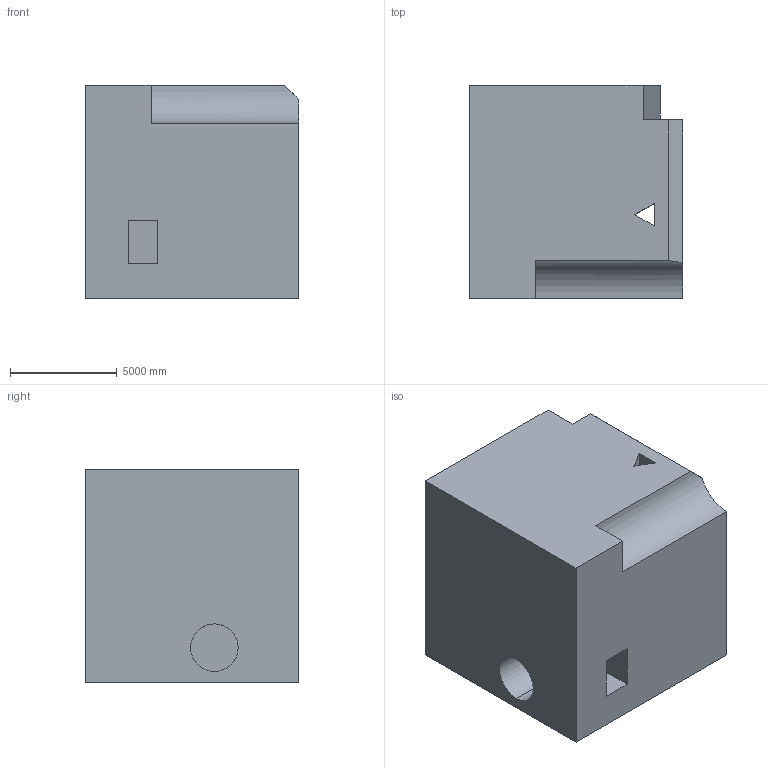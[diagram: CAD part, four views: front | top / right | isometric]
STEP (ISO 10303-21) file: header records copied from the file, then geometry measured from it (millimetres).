
FILE_DESCRIPTION (( 'STEP AP203' ), '1' );
FILE_NAME ('83.STEP', '2022-09-02T15:25:13', ( 'user' ), ( '' ), 'SwSTEP 2.0', 'SolidWorks 2021', '' );
FILE_SCHEMA (( 'CONFIG_CONTROL_DESIGN' ));
Length unit declared in the file: centimetre
Products named in the file (1): 83
Bounding box: 10000 x 10000 x 10000 mm (x, y, z)
Volume: 895126596549.6 mm3; surface area: 758887127.6 mm2
Topology: 1 solids, 1 shells, 37 faces, 96 edges, 64 vertices
Faces by surface type: plane 30, cylinder 7
Entity records: 1213 total; most frequent: CARTESIAN_POINT 201, ORIENTED_EDGE 192, DIRECTION 189, EDGE_CURVE 96, LINE 77, VECTOR 77, VERTEX_POINT 64, AXIS2_PLACEMENT_3D 56
